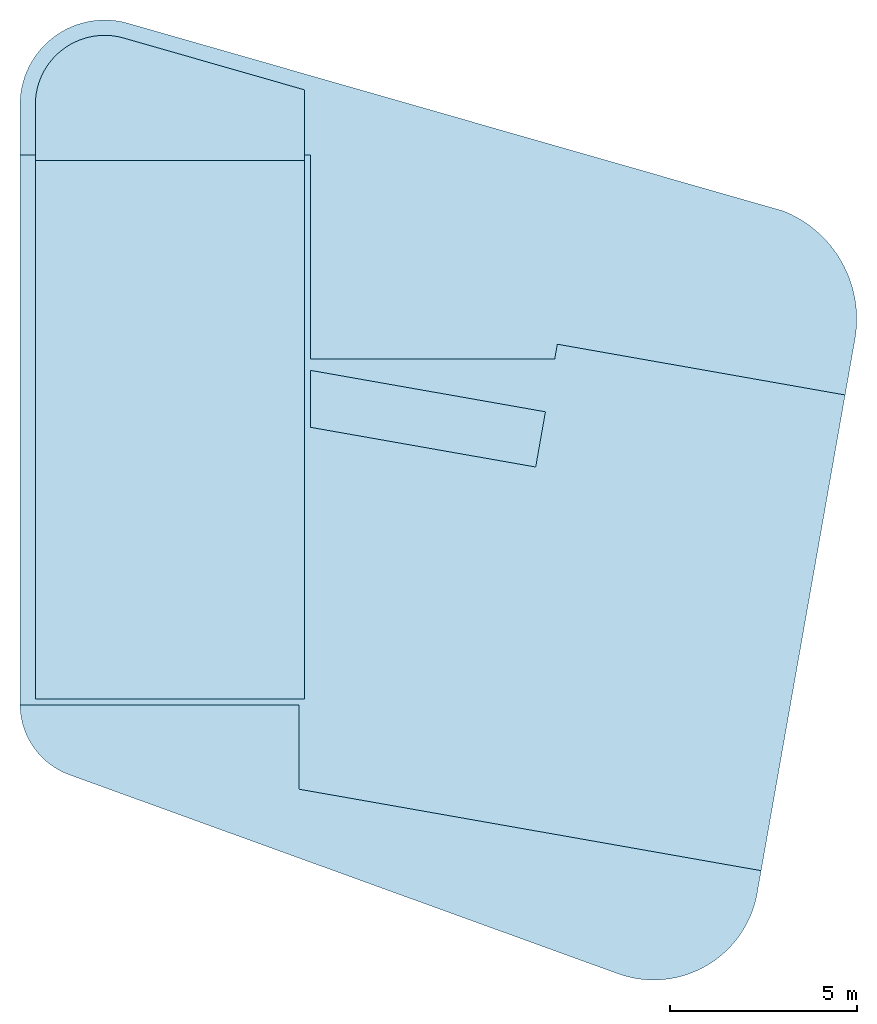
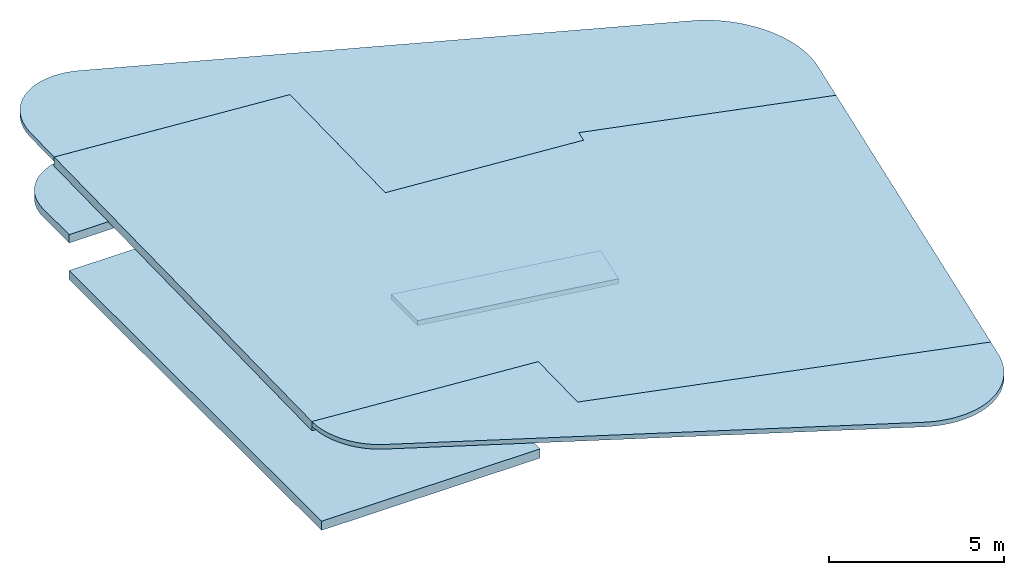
# One storey: 6 slabs.
"""IFC2X3 building model written with IfcOpenShell, lengths in millimetres."""

from ifc_helpers import new_model, entity, si_unit, converted_unit, derived_unit, direction, frame, frame_2d, origin, place, context, subcontext, project, spatial, polyline, circle_curve, ellipse_curve, parameter, trimmed, segment, composite_curve, rectangle, outline, extrude, clip, halfspace, material, layer, layer_set, layer_usage, type_object, element, save


model = new_model("IFC2X3")

# Units and contexts
model_context = context("Model", 3, precision=0.01, world=origin(), true_north=direction((6.12303176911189e-17, 1.0)))
context_of_model = context(None, 3, precision=0.01, world=origin(), true_north=direction((6.12303176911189e-17, 1.0)))
body_context = subcontext(model_context, "Body", "Model", "MODEL_VIEW")
ifc_project = project(units=[si_unit("LENGTHUNIT", "METRE", prefix="MILLI"), si_unit("AREAUNIT", "SQUARE_METRE"), si_unit("VOLUMEUNIT", "CUBIC_METRE"), converted_unit("PLANEANGLEUNIT", "DEGREE", entity("IfcRatioMeasure", 0.0174532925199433), si_unit("PLANEANGLEUNIT", "RADIAN"), dimensions=[0, 0, 0, 0, 0, 0, 0]), si_unit("MASSUNIT", "GRAM", prefix="KILO"), derived_unit("MASSDENSITYUNIT", [(si_unit("MASSUNIT", "GRAM", prefix="KILO"), 1), (si_unit("LENGTHUNIT", "METRE"), -3)]), derived_unit("MOMENTOFINERTIAUNIT", [(si_unit("LENGTHUNIT", "METRE"), 4)]), si_unit("TIMEUNIT", "SECOND"), si_unit("FREQUENCYUNIT", "HERTZ"), si_unit("THERMODYNAMICTEMPERATUREUNIT", "DEGREE_CELSIUS"), derived_unit("THERMALTRANSMITTANCEUNIT", [(si_unit("MASSUNIT", "GRAM", prefix="KILO"), 1), (si_unit("THERMODYNAMICTEMPERATUREUNIT", "KELVIN"), -1), (si_unit("TIMEUNIT", "SECOND"), -3)]), derived_unit("VOLUMETRICFLOWRATEUNIT", [(si_unit("LENGTHUNIT", "METRE"), 3), (si_unit("TIMEUNIT", "SECOND"), -1)]), si_unit("ELECTRICCURRENTUNIT", "AMPERE"), si_unit("ELECTRICVOLTAGEUNIT", "VOLT"), si_unit("POWERUNIT", "WATT"), si_unit("FORCEUNIT", "NEWTON", prefix="KILO"), si_unit("ILLUMINANCEUNIT", "LUX"), si_unit("LUMINOUSFLUXUNIT", "LUMEN"), si_unit("LUMINOUSINTENSITYUNIT", "CANDELA"), derived_unit("USERDEFINED", [(si_unit("MASSUNIT", "GRAM", prefix="KILO"), -1), (si_unit("LENGTHUNIT", "METRE"), -2), (si_unit("TIMEUNIT", "SECOND"), 3), (si_unit("LUMINOUSFLUXUNIT", "LUMEN"), 1)]), derived_unit("LINEARVELOCITYUNIT", [(si_unit("LENGTHUNIT", "METRE"), 1), (si_unit("TIMEUNIT", "SECOND"), -1)]), si_unit("PRESSUREUNIT", "PASCAL"), derived_unit("USERDEFINED", [(si_unit("LENGTHUNIT", "METRE"), -2), (si_unit("MASSUNIT", "GRAM", prefix="KILO"), 1), (si_unit("TIMEUNIT", "SECOND"), -2)]), derived_unit("LINEARFORCEUNIT", [(si_unit("MASSUNIT", "GRAM", prefix="KILO"), 1), (si_unit("LENGTHUNIT", "METRE"), 1), (si_unit("TIMEUNIT", "SECOND"), -2), (si_unit("LENGTHUNIT", "METRE"), -1)]), derived_unit("PLANARFORCEUNIT", [(si_unit("MASSUNIT", "GRAM", prefix="KILO"), 1), (si_unit("LENGTHUNIT", "METRE"), 1), (si_unit("TIMEUNIT", "SECOND"), -2), (si_unit("LENGTHUNIT", "METRE"), -2)])], contexts=[model_context, context_of_model])

# Site, building, storey
site_placement = place(None, origin())
site = spatial("IfcSite", under=ifc_project, at=site_placement, Name="Default", CompositionType="ELEMENT")
building_placement = place(site_placement, origin())
building = spatial("IfcBuilding", under=site, at=building_placement, Name="IFc", CompositionType="ELEMENT")
storey_placement = place(building_placement, frame((0.0, 0.0, 3700.0)))
storey = spatial("IfcBuildingStorey", under=building, at=storey_placement, Name="02 2e verd. b.k. ruwe vloer", CompositionType="ELEMENT", Elevation=3700.0)

# Slabs
ifc_material_1 = material(Name="IMd_hout")
ifc_layer_1 = layer(ifc_material_1, 320.0)
ifc_layer_set_1 = layer_set([ifc_layer_1], Name="Floor:NLRS_23_FL Houten kanaalplaat_d=320")
ifc_layer_usage_1 = layer_usage(ifc_layer_set_1, "AXIS3", "POSITIVE", 0.0)
slab_type_1 = type_object("IfcSlabType", Name="Floor:NLRS_23_FL Houten kanaalplaat_d=320", PredefinedType="FLOOR", material=ifc_layer_set_1)
slab_1_placement = place(storey_placement, origin())
element("IfcSlab", 1, at=slab_1_placement, inside=storey, type_object=slab_type_1, material=ifc_layer_usage_1, Name="Floor:NLRS_23_FL Houten kanaalplaat_d=320", ObjectType="Floor:NLRS_23_FL Houten kanaalplaat_d=320", PredefinedType="FLOOR", context=body_context, shape_type="SweptSolid", body=[
    extrude(rectangle(XDim=14400.0, YDim=7199.99999999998, at=frame_2d((-9.09494701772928e-13, -1.13686837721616e-12), x_axis=(1.0, 0.0))), frame((13575.0, 17200.0, 0.0), z_axis=(0.0, 0.0, -1.0), x_axis=(0.0, 1.0, 0.0)), (0.0, 0.0, 1.0), 320.0),
])
ifc_material_2 = material(Name="IMd_underlayment")
ifc_layer_2 = layer(ifc_material_2, 18.0)
ifc_layer_3 = layer(ifc_material_1, 271.0)
ifc_layer_set_2 = layer_set([ifc_layer_2, ifc_layer_3], Name="Floor:NLRS_23_FL Houten_balklaag_71x271+underlayment_d=18")
ifc_layer_usage_2 = layer_usage(ifc_layer_set_2, "AXIS3", "POSITIVE", 0.0)
slab_type_2 = type_object("IfcSlabType", Name="Floor:NLRS_23_FL Houten_balklaag_71x271+underlayment_d=18", PredefinedType="FLOOR", material=ifc_layer_set_2)
slab_2_placement = place(storey_placement, origin())
element("IfcSlab", 2, at=slab_2_placement, inside=storey, type_object=slab_type_2, material=ifc_layer_usage_2, Name="Floor:NLRS_23_FL Houten_balklaag_71x271+underlayment_d=18", ObjectType="Floor:NLRS_23_FL Houten_balklaag_71x271+underlayment_d=18", PredefinedType="FLOOR", context=body_context, shape_type="SweptSolid", body=[
    extrude(outline(composite_curve([segment(polyline([(-1331.68692037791, -3348.77309082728), (159.808929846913, -3348.77309082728)]), True, "CONTINUOUS"), segment(trimmed(circle_curve(frame_2d((159.808929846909, -1495.05480183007), x_axis=(0.0, -1.0)), 1853.71828899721), [parameter(0.0)], [parameter(105.318067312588)], True, "PARAMETER"), True, "CONTINUOUS"), segment(polyline([(1947.67232383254, -1005.34470451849), (555.892587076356, 3851.44544308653)]), True, "CONTINUOUS"), segment(polyline([(555.892587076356, 3851.44544308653), (-1331.68692037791, 3851.44544308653)]), True, "CONTINUOUS"), segment(polyline([(-1331.68692037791, 3851.44544308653), (-1331.68692037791, -3348.77309082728)]), True, "CONTINUOUS")], self_intersect=False)), frame((13323.5545569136, 25731.6869203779, 1250.0), z_axis=(0.0, 0.0, -1.0), x_axis=(0.0, 1.0, 0.0)), (0.0, 0.0, 1.0), 289.0),
])
ifc_layer_usage_3 = layer_usage(ifc_layer_set_1, "AXIS3", "POSITIVE", 0.0)
slab_type_3 = type_object("IfcSlabType", Name="Floor:NLRS_23_FL Houten kanaalplaat_d=320", PredefinedType="FLOOR", material=ifc_layer_set_1)
slab_3_placement = place(storey_placement, origin())
element("IfcSlab", 3, at=slab_3_placement, inside=storey, type_object=slab_type_3, material=ifc_layer_usage_3, Name="Floor:NLRS_23_FL Houten kanaalplaat_d=320", ObjectType="Floor:NLRS_23_FL Houten kanaalplaat_d=320", PredefinedType="FLOOR", context=body_context, shape_type="Clipping", body=[
    clip(clip(extrude(outline(polyline([(-5905.30636392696, -10122.4704050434), (8803.67846207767, -10122.4704050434), (8792.68551664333, -2337.32468667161), (3341.57934897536, -2337.32468667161), (3332.33858734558, 4206.93374398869), (3721.90039580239, 4275.79651539), (2354.24800186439, 11987.7802699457), (-10360.4875951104, 9737.23744257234), (-8164.77019384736, -2644.0788942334), (-5915.86615982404, -2644.0788942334), (-5905.30636392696, -10122.4704050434)])), frame((19662.577975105, 15762.3984709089, 3120.16670424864), z_axis=(-0.0700806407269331, 0.0200951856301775, -0.997338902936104), x_axis=(0.0, 0.999797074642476, 0.0201447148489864)), (-0.0201447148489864, 0.0700664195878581, 0.997338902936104), 321.709924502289), halfspace(frame((30201.6171043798, 11811.1263764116, 1979.14617683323), z_axis=(-0.070080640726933, 0.0200951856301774, -0.997338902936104), x_axis=(-0.958704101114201, 0.274902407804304, 0.0729048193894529)), False)), halfspace(frame((30201.6171043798, 11811.1263764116, 2300.0), z_axis=(0.070080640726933, -0.0200951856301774, 0.997338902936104), x_axis=(0.958704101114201, -0.274902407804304, -0.0729048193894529)), False)),
])
ifc_material_3 = material(Name="IMd_staal")
ifc_layer_4 = layer(ifc_material_3, 160.0)
ifc_layer_set_3 = layer_set([ifc_layer_4], Name="Floor:NLRS_23_FL stalen liggers_bk_h=160")
ifc_layer_usage_4 = layer_usage(ifc_layer_set_3, "AXIS3", "POSITIVE", 0.0)
slab_type_4 = type_object("IfcSlabType", Name="Floor:NLRS_23_FL stalen liggers_bk_h=160", PredefinedType="FLOOR")
slab_4_placement = place(storey_placement, frame((9564.99539077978, 2495.57591542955, 2063.09426457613)))
element("IfcSlab", 4, at=slab_4_placement, inside=storey, type_object=slab_type_4, material=ifc_layer_usage_4, Name="Floor:NLRS_23_FL stalen liggers_bk_h=160", ObjectType="Floor:NLRS_23_FL stalen liggers_bk_h=160", PredefinedType="FLOOR", context=body_context, shape_type="SweptSolid", body=[
    extrude(outline(composite_curve([segment(polyline([(-12902.3397081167, 12759.6778222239), (-12902.3397081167, 7308.61213069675)]), True, "CONTINUOUS"), segment(polyline([(-12902.3397081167, 7308.61213069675), (-6358.07412430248, 7299.37135896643)]), True, "CONTINUOUS"), segment(polyline([(-6358.07412430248, 7299.37135896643), (-6289.21850607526, 7688.89270138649)]), True, "CONTINUOUS"), segment(polyline([(-6289.21850607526, 7688.89270138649), (1422.76524851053, 6321.24030744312)]), True, "CONTINUOUS"), segment(polyline([(1422.76524851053, 6321.24030744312), (1685.83963711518, 7807.51342020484)]), True, "CONTINUOUS"), segment(trimmed(ellipse_curve(frame_2d((-1384.33931178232, 8352.69408704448), x_axis=(0.276315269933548, 0.96106704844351)), 3110.0, 3118.29809390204), [parameter(275.987007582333)], [parameter(354.297731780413)], True, "PARAMETER"), True, "CONTINUOUS"), segment(polyline([(-231.482379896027, 11241.2112016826), (-17794.0274723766, 16286.0159411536)]), True, "CONTINUOUS"), segment(trimmed(ellipse_curve(frame_2d((-18418.8247961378, 14110.8902439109), x_axis=(0.276315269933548, 0.96106704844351)), 2263.08274108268, 2269.12109255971), [parameter(0.0138453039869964)], [parameter(105.999913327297)], True, "PARAMETER"), True, "CONTINUOUS"), segment(polyline([(-20687.4854264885, 14114.0936858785), (-20687.4854264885, 12770.6707676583)]), True, "CONTINUOUS"), segment(polyline([(-20687.4854264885, 12770.6707676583), (-12902.3397081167, 12759.6778222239)]), True, "CONTINUOUS")], self_intersect=False)), frame((20636.6217136, 9315.55046098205, 236.905735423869), z_axis=(0.070080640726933, -0.0200951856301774, 0.997338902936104), x_axis=(0.997541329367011, 0.00141175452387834, -0.070066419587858)), (0.070066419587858, -0.0201447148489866, -0.997338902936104), 160.426911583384),
])
slab_type_5 = type_object("IfcSlabType", Name="Floor:NLRS_23_FL stalen liggers_bk_h=160", PredefinedType="FLOOR", material=ifc_layer_set_3)
slab_5_placement = place(storey_placement, frame((9564.99539077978, 2495.57591542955, 2063.09426457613)))
element("IfcSlab", 5, at=slab_5_placement, inside=storey, type_object=slab_type_5, material=ifc_layer_usage_4, Name="Floor:NLRS_23_FL stalen liggers_bk_h=160:2", ObjectType="Floor:NLRS_23_FL stalen liggers_bk_h=160", PredefinedType="FLOOR", context=body_context, shape_type="SweptSolid", body=[
    extrude(outline(composite_curve([segment(polyline([(-13209.0939156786, -4197.77788826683), (-13209.0939156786, -1948.87385424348)]), True, "CONTINUOUS"), segment(polyline([(-13209.0939156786, -1948.87385424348), (-20687.3459251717, -1938.31425532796)]), True, "CONTINUOUS"), segment(trimmed(ellipse_curve(frame_2d((-18672.5313179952, -1917.502878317), x_axis=(0.276315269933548, 0.96106704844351)), 2010.0, 2015.36307676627), [parameter(106.674125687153)], [parameter(176.067449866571)], True, "PARAMETER"), True, "CONTINUOUS"), segment(polyline([(-19359.4538717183, -3806.50762842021), (-4668.49223641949, -9142.70238783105)]), True, "CONTINUOUS"), segment(trimmed(ellipse_curve(frame_2d((-3708.16767126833, -6501.85495113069), x_axis=(0.276315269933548, 0.96106704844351)), 2809.99999998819, 2817.49763467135), [parameter(176.067449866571)], [parameter(275.987007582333)], True, "PARAMETER"), True, "CONTINUOUS"), segment(polyline([(-934.147463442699, -6994.44584303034), (-827.777578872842, -6393.49528952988)]), True, "CONTINUOUS"), segment(polyline([(-827.777578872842, -6393.49528952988), (-13209.0939156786, -4197.77788826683)]), True, "CONTINUOUS")], self_intersect=False)), frame((20636.6217136, 9315.55046098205, 236.905735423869), z_axis=(0.070080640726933, -0.0200951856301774, 0.997338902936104), x_axis=(0.997541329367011, 0.00141175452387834, -0.070066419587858)), (0.070066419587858, -0.0201447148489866, -0.997338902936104), 160.426911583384),
])
ifc_layer_5 = layer(ifc_material_2, 18.0)
ifc_layer_6 = layer(ifc_material_1, 156.0)
ifc_layer_set_4 = layer_set([ifc_layer_5, ifc_layer_6], Name="Floor:NLRS_23_FL Houten_balklaag_59x156+underlayment_d=18")
ifc_layer_usage_5 = layer_usage(ifc_layer_set_4, "AXIS3", "POSITIVE", 0.0)
slab_type_6 = type_object("IfcSlabType", Name="Floor:NLRS_23_FL Houten_balklaag_59x156+underlayment_d=18", PredefinedType="FLOOR", material=ifc_layer_set_4)
slab_6_placement = place(storey_placement, origin())
element("IfcSlab", 6, at=slab_6_placement, inside=storey, type_object=slab_type_6, material=ifc_layer_usage_5, Name="Floor:NLRS_23_FL Houten_balklaag_59x156+underlayment_d=18", ObjectType="Floor:NLRS_23_FL Houten_balklaag_59x156+underlayment_d=18", PredefinedType="FLOOR", context=body_context, shape_type="SweptSolid", body=[
    extrude(outline(polyline([(-219.037214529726, -3074.11750984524), (1303.13693223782, -3074.11750984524), (196.087631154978, 3204.27106480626), (-1280.18734886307, 2943.96395488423), (-219.037214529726, -3074.11750984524)])), frame((20405.1175098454, 17487.3414108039, 0.0), z_axis=(0.0, 0.0, -1.0), x_axis=(0.0, 1.0, 0.0)), (0.0, 0.0, 1.0), 174.0),
])

save(model, "model.ifc")
